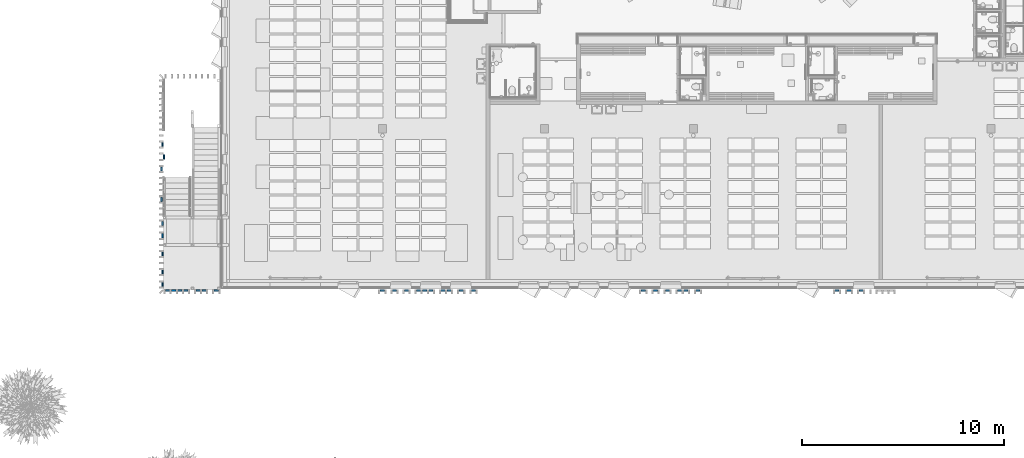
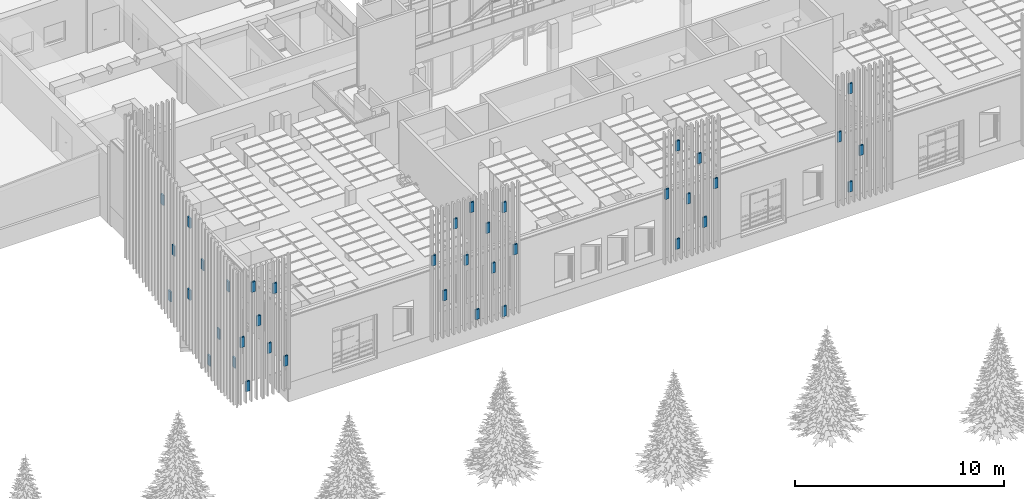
# One storey, part 22 of 301: 39 columns.
"""IFC2X3 building model written with IfcOpenShell, lengths in millimetres."""

from ifc_helpers import new_model, entity, si_unit, converted_unit, derived_unit, money_unit, direction, frame, origin_with_axes, place, context, subcontext, project, spatial, faceted_brep, material, type_object, element, save


model = new_model("IFC2X3")

# Units and contexts
model_context = context("Model", 3, precision=0.01, world=origin_with_axes(), true_north=direction((0.0, 1.0)))
body_context = subcontext(model_context, "Body", "Model", "MODEL_VIEW")
ifc_project = project(units=[si_unit("LENGTHUNIT", "METRE", prefix="MILLI"), si_unit("AREAUNIT", "SQUARE_METRE"), si_unit("VOLUMEUNIT", "CUBIC_METRE"), converted_unit("PLANEANGLEUNIT", "DEGREE", entity("IfcPlaneAngleMeasure", 0.0174532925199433), si_unit("PLANEANGLEUNIT", "RADIAN"), dimensions=[0, 0, 0, 0, 0, 0, 0]), money_unit("EUR"), converted_unit("TIMEUNIT", "Year", entity("IfcTimeMeasure", 31557600.0), si_unit("TIMEUNIT", "SECOND"), dimensions=[0, 0, 1, 0, 0, 0, 0]), si_unit("MASSUNIT", "GRAM", prefix="KILO"), si_unit("THERMODYNAMICTEMPERATUREUNIT", "DEGREE_CELSIUS"), si_unit("LUMINOUSINTENSITYUNIT", "LUMEN"), si_unit("ENERGYUNIT", "JOULE", prefix="MEGA"), derived_unit("THERMALCONDUCTANCEUNIT", [(si_unit("POWERUNIT", "WATT"), 1), (si_unit("LENGTHUNIT", "METRE"), -1), (si_unit("THERMODYNAMICTEMPERATUREUNIT", "KELVIN"), -1)]), derived_unit("SPECIFICHEATCAPACITYUNIT", [(si_unit("ENERGYUNIT", "JOULE"), 1), (si_unit("MASSUNIT", "GRAM", prefix="KILO"), -1), (si_unit("THERMODYNAMICTEMPERATUREUNIT", "KELVIN"), -1)]), derived_unit("MASSDENSITYUNIT", [(si_unit("MASSUNIT", "GRAM", prefix="KILO"), 1), (si_unit("VOLUMEUNIT", "CUBIC_METRE"), -1)])], contexts=[model_context])

# Site, building, storey
site_placement = place(None, frame((0.0, 0.0, 8650.0), z_axis=(0.0, 0.0, 1.0), x_axis=(1.0, 0.0, 0.0)))
site = spatial("IfcSite", under=ifc_project, at=site_placement, Name="43301:001:0844", CompositionType="ELEMENT")
building_placement = place(site_placement, origin_with_axes())
building = spatial("IfcBuilding", under=site, at=building_placement, Name="Kuressaare Ametikooli tuulikute mehaanikute õppekorpus", CompositionType="ELEMENT")
storey_placement = place(building_placement, origin_with_axes())
storey = spatial("IfcBuildingStorey", under=building, at=storey_placement, Name="1.korrus", CompositionType="ELEMENT", Elevation=0.0)

# Columns
ifc_material = material(Name="GENEERILINE - KONSTRUKTRIOON")
column_type = type_object("IfcColumnType", Name="GENEERILINE - KONSTRUKTRIOON 225 x 75", PredefinedType="NOTDEFINED")
column_1_placement = place(storey_placement, frame((109945.4495291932, 8586.338490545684, 3114.028004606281), z_axis=(0.0, 0.0, 1.0), x_axis=(1.0, 0.0, 0.0)))
element("IfcColumn", 1, at=column_1_placement, inside=storey, type_object=column_type, material=ifc_material, Name="Varjestus_viltu", context=body_context, shape_type="Brep", body=[
    faceted_brep([(-112.4999999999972, -37.49999999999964, 593.4383502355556), (-112.4999999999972, -37.49999999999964, 0.0), (112.4999999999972, -37.49999999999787, 0.0), (112.4999999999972, -37.49999999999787, 593.4383502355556), (-112.4999999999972, 37.49999999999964, 600.0000000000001), (-112.4999999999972, 37.49999999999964, 0.0), (112.4999999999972, 37.50000000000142, 0.0), (112.4999999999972, 37.50000000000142, 600.0000000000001)], [[[0, 1, 2, 3]], [[4, 5, 1, 0]], [[2, 1, 5, 6]], [[3, 2, 6, 7]], [[4, 0, 3, 7]], [[7, 6, 5, 4]]]),
])
for number, where, z_axis, x_axis in (
    (2, (108745.4495291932, 8586.338490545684, 3804.065608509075), (0.0, 0.0, 1.0), (1.0, 0.0, 0.0)),
    (3, (109345.4495291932, 8586.338490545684, 6418.760035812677), (0.0, 0.0, 1.0), (1.0, 0.0, 0.0)),
):
    element("IfcColumn", number, at=place(storey_placement, frame(where, z_axis=z_axis, x_axis=x_axis)), inside=storey, type_object=column_type, material=ifc_material, Name="Varjestus_viltu", context=body_context, shape_type="Brep", body=[
        faceted_brep([(-112.4999999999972, -37.49999999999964, 593.4383502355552), (-112.4999999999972, -37.49999999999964, 0.0), (112.4999999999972, -37.49999999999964, 0.0), (112.4999999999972, -37.49999999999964, 593.4383502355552), (-112.4999999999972, 37.49999999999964, 599.9999999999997), (-112.4999999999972, 37.49999999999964, 0.0), (112.4999999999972, 37.49999999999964, 0.0), (112.4999999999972, 37.49999999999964, 599.9999999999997)], [[[0, 1, 2, 3]], [[4, 5, 1, 0]], [[2, 1, 5, 6]], [[3, 2, 6, 7]], [[4, 0, 3, 7]], [[7, 6, 5, 4]]]),
    ])
column_2_placement = place(storey_placement, frame((109345.4495291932, 8586.338490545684, 675.2225760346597), z_axis=(0.0, 0.0, 1.0), x_axis=(1.0, 0.0, 0.0)))
element("IfcColumn", 4, at=column_2_placement, inside=storey, type_object=column_type, material=ifc_material, Name="Varjestus_viltu", context=body_context, shape_type="Brep", body=[
    faceted_brep([(-112.4999999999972, -37.49999999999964, 593.4383502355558), (-112.4999999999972, -37.49999999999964, 0.0), (112.4999999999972, -37.49999999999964, 0.0), (112.4999999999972, -37.49999999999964, 593.4383502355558), (-112.4999999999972, 37.49999999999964, 600.0000000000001), (-112.4999999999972, 37.49999999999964, 0.0), (112.4999999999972, 37.49999999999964, 0.0), (112.4999999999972, 37.49999999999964, 600.0000000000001)], [[[0, 1, 2, 3]], [[4, 5, 1, 0]], [[2, 1, 5, 6]], [[3, 2, 6, 7]], [[4, 0, 3, 7]], [[7, 6, 5, 4]]]),
])
column_3_placement = place(storey_placement, frame((110545.4495291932, 8586.338490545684, 5262.349559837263), z_axis=(0.0, 0.0, 1.0), x_axis=(1.0, 0.0, 0.0)))
element("IfcColumn", 5, at=column_3_placement, inside=storey, type_object=column_type, material=ifc_material, Name="Varjestus_viltu", context=body_context, shape_type="Brep", body=[
    faceted_brep([(-112.4999999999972, -37.49999999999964, 593.4383502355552), (-112.4999999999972, -37.49999999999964, 0.0), (112.4999999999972, -37.49999999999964, 0.0), (112.4999999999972, -37.49999999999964, 593.4383502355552), (-112.4999999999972, 37.49999999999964, 599.9999999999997), (-112.4999999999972, 37.49999999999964, 0.0), (112.4999999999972, 37.49999999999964, 0.0), (112.4999999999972, 37.49999999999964, 599.9999999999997)], [[[0, 1, 2, 3]], [[4, 5, 1, 0]], [[2, 1, 5, 6]], [[3, 2, 6, 7]], [[4, 0, 3, 7]], [[7, 6, 5, 4]]]),
])
column_4_placement = place(storey_placement, frame((110845.4495291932, 8586.338490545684, 1426.263517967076), z_axis=(0.0, 0.0, 1.0), x_axis=(1.0, 0.0, 0.0)))
element("IfcColumn", 6, at=column_4_placement, inside=storey, type_object=column_type, material=ifc_material, Name="Varjestus_viltu", context=body_context, shape_type="Brep", body=[
    faceted_brep([(-112.4999999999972, -37.49999999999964, 593.4383502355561), (-112.4999999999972, -37.49999999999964, 0.0), (112.4999999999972, -37.49999999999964, 0.0), (112.4999999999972, -37.49999999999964, 593.4383502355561), (-112.4999999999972, 37.49999999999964, 600.0000000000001), (-112.4999999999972, 37.49999999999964, 0.0), (112.4999999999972, 37.49999999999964, 0.0), (112.4999999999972, 37.49999999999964, 600.0000000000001)], [[[0, 1, 2, 3]], [[4, 5, 1, 0]], [[2, 1, 5, 6]], [[3, 2, 6, 7]], [[4, 0, 3, 7]], [[7, 6, 5, 4]]]),
])
column_5_placement = place(storey_placement, frame((111445.4495291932, 8586.338490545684, 3482.960251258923), z_axis=(0.0, 0.0, 1.0), x_axis=(1.0, 0.0, 0.0)))
element("IfcColumn", 7, at=column_5_placement, inside=storey, type_object=column_type, material=ifc_material, Name="Varjestus_viltu", context=body_context, shape_type="Brep", body=[
    faceted_brep([(-112.4999999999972, -37.49999999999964, 593.4383502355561), (-112.4999999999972, -37.49999999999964, 0.0), (112.4999999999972, -37.49999999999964, 0.0), (112.4999999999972, -37.49999999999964, 593.4383502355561), (-112.4999999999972, 37.49999999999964, 600.0000000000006), (-112.4999999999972, 37.49999999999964, 0.0), (112.4999999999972, 37.49999999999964, 0.0), (112.4999999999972, 37.49999999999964, 600.0000000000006)], [[[0, 1, 2, 3]], [[4, 5, 1, 0]], [[2, 1, 5, 6]], [[3, 2, 6, 7]], [[4, 0, 3, 7]], [[7, 6, 5, 4]]]),
])
column_6_placement = place(storey_placement, frame((119505.5423111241, 8586.338490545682, 2604.065608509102), z_axis=(0.0, 0.0, 1.0), x_axis=(1.0, 0.0, 0.0)))
element("IfcColumn", 8, at=column_6_placement, inside=storey, type_object=column_type, material=ifc_material, Name="Varjestus_viltu", context=body_context, shape_type="Brep", body=[
    faceted_brep([(-112.4999999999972, -37.49999999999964, 593.4383502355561), (-112.4999999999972, -37.49999999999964, 0.0), (112.4999999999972, -37.49999999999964, 0.0), (112.4999999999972, -37.49999999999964, 593.4383502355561), (-112.4999999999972, 37.49999999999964, 600.0000000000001), (-112.4999999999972, 37.49999999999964, 0.0), (112.4999999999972, 37.49999999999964, 0.0), (112.4999999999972, 37.49999999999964, 600.0000000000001)], [[[0, 1, 2, 3]], [[4, 5, 1, 0]], [[2, 1, 5, 6]], [[3, 2, 6, 7]], [[4, 0, 3, 7]], [[7, 6, 5, 4]]]),
])
for number, where, z_axis, x_axis in (
    (9, (118305.5423111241, 8586.338490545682, 3804.065608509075), (0.0, 0.0, 1.0), (1.0, 0.0, 0.0)),
    (10, (118905.5423111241, 8586.338490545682, 6418.760035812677), (0.0, 0.0, 1.0), (1.0, 0.0, 0.0)),
):
    element("IfcColumn", number, at=place(storey_placement, frame(where, z_axis=z_axis, x_axis=x_axis)), inside=storey, type_object=column_type, material=ifc_material, Name="Varjestus_viltu", context=body_context, shape_type="Brep", body=[
        faceted_brep([(-112.4999999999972, -37.49999999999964, 593.4383502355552), (-112.4999999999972, -37.49999999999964, 0.0), (112.4999999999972, -37.49999999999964, 0.0), (112.4999999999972, -37.49999999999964, 593.4383502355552), (-112.4999999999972, 37.49999999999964, 599.9999999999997), (-112.4999999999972, 37.49999999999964, 0.0), (112.4999999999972, 37.49999999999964, 0.0), (112.4999999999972, 37.49999999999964, 599.9999999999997)], [[[0, 1, 2, 3]], [[4, 5, 1, 0]], [[2, 1, 5, 6]], [[3, 2, 6, 7]], [[4, 0, 3, 7]], [[7, 6, 5, 4]]]),
    ])
column_7_placement = place(storey_placement, frame((118905.5423111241, 8586.338490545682, 675.2225760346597), z_axis=(0.0, 0.0, 1.0), x_axis=(1.0, 0.0, 0.0)))
element("IfcColumn", 11, at=column_7_placement, inside=storey, type_object=column_type, material=ifc_material, Name="Varjestus_viltu", context=body_context, shape_type="Brep", body=[
    faceted_brep([(-112.4999999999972, -37.49999999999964, 593.4383502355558), (-112.4999999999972, -37.49999999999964, 0.0), (112.4999999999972, -37.49999999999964, 0.0), (112.4999999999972, -37.49999999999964, 593.4383502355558), (-112.4999999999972, 37.49999999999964, 600.0000000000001), (-112.4999999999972, 37.49999999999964, 0.0), (112.4999999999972, 37.49999999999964, 0.0), (112.4999999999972, 37.49999999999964, 600.0000000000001)], [[[0, 1, 2, 3]], [[4, 5, 1, 0]], [[2, 1, 5, 6]], [[3, 2, 6, 7]], [[4, 0, 3, 7]], [[7, 6, 5, 4]]]),
])
column_8_placement = place(storey_placement, frame((99155.56858359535, 8586.338490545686, 2842.619640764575), z_axis=(0.0, 0.0, 1.0), x_axis=(1.0, 0.0, 0.0)))
element("IfcColumn", 12, at=column_8_placement, inside=storey, type_object=column_type, material=ifc_material, Name="Varjestus_viltu", context=body_context, shape_type="Brep", body=[
    faceted_brep([(-112.4999999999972, -37.49999999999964, 593.4383502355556), (-112.4999999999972, -37.49999999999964, 0.0), (112.4999999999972, -37.49999999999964, 0.0), (112.4999999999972, -37.49999999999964, 593.4383502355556), (-112.4999999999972, 37.49999999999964, 600.0000000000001), (-112.4999999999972, 37.49999999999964, 0.0), (112.4999999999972, 37.49999999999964, 0.0), (112.4999999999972, 37.49999999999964, 600.0000000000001)], [[[0, 1, 2, 3]], [[4, 5, 1, 0]], [[2, 1, 5, 6]], [[3, 2, 6, 7]], [[4, 0, 3, 7]], [[7, 6, 5, 4]]]),
])
column_9_placement = place(storey_placement, frame((97655.56858359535, 8586.338490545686, 3821.105357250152), z_axis=(0.0, 0.0, 1.0), x_axis=(1.0, 0.0, 0.0)))
element("IfcColumn", 13, at=column_9_placement, inside=storey, type_object=column_type, material=ifc_material, Name="Varjestus_viltu", context=body_context, shape_type="Brep", body=[
    faceted_brep([(-112.4999999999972, -37.49999999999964, 593.4383502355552), (-112.4999999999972, -37.49999999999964, 0.0), (112.4999999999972, -37.49999999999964, 0.0), (112.4999999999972, -37.49999999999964, 593.4383502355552), (-112.4999999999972, 37.49999999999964, 599.9999999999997), (-112.4999999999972, 37.49999999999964, 0.0), (112.4999999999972, 37.49999999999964, 0.0), (112.4999999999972, 37.49999999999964, 599.9999999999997)], [[[0, 1, 2, 3]], [[4, 5, 1, 0]], [[2, 1, 5, 6]], [[3, 2, 6, 7]], [[4, 0, 3, 7]], [[7, 6, 5, 4]]]),
])
column_10_placement = place(storey_placement, frame((97955.56858359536, 8586.338490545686, 6811.780808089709), z_axis=(0.0, 0.0, 1.0), x_axis=(1.0, 0.0, 0.0)))
element("IfcColumn", 14, at=column_10_placement, inside=storey, type_object=column_type, material=ifc_material, Name="Varjestus_viltu", context=body_context, shape_type="Brep", body=[
    faceted_brep([(-112.4999999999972, -37.49999999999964, 593.4383502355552), (-112.4999999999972, -37.49999999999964, 0.0), (112.4999999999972, -37.49999999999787, 0.0), (112.4999999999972, -37.49999999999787, 593.4383502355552), (-112.4999999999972, 37.49999999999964, 599.9999999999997), (-112.4999999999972, 37.49999999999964, 0.0), (112.4999999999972, 37.50000000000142, 0.0), (112.4999999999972, 37.50000000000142, 599.9999999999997)], [[[0, 1, 2, 3]], [[4, 5, 1, 0]], [[2, 1, 5, 6]], [[3, 2, 6, 7]], [[4, 0, 3, 7]], [[7, 6, 5, 4]]]),
])
column_11_placement = place(storey_placement, frame((98255.56858359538, 8586.338490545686, 438.8966056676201), z_axis=(0.0, 0.0, 1.0), x_axis=(1.0, 0.0, 0.0)))
element("IfcColumn", 15, at=column_11_placement, inside=storey, type_object=column_type, material=ifc_material, Name="Varjestus_viltu", context=body_context, shape_type="Brep", body=[
    faceted_brep([(-112.4999999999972, -37.49999999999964, 593.4383502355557), (-112.4999999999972, -37.49999999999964, 0.0), (112.4999999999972, -37.49999999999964, 0.0), (112.4999999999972, -37.49999999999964, 593.4383502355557), (-112.4999999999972, 37.49999999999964, 600.0), (-112.4999999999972, 37.49999999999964, 0.0), (112.4999999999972, 37.49999999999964, 0.0), (112.4999999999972, 37.49999999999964, 600.0)], [[[0, 1, 2, 3]], [[4, 5, 1, 0]], [[2, 1, 5, 6]], [[3, 2, 6, 7]], [[4, 0, 3, 7]], [[7, 6, 5, 4]]]),
])
column_12_placement = place(storey_placement, frame((98855.56858359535, 8586.338490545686, 5279.38930857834), z_axis=(0.0, 0.0, 1.0), x_axis=(1.0, 0.0, 0.0)))
element("IfcColumn", 16, at=column_12_placement, inside=storey, type_object=column_type, material=ifc_material, Name="Varjestus_viltu", context=body_context, shape_type="Brep", body=[
    faceted_brep([(-112.4999999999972, -37.49999999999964, 593.4383502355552), (-112.4999999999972, -37.49999999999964, 0.0), (112.4999999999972, -37.49999999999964, 0.0), (112.4999999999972, -37.49999999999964, 593.4383502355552), (-112.4999999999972, 37.49999999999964, 599.9999999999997), (-112.4999999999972, 37.49999999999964, 0.0), (112.4999999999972, 37.49999999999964, 0.0), (112.4999999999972, 37.49999999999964, 599.9999999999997)], [[[0, 1, 2, 3]], [[4, 5, 1, 0]], [[2, 1, 5, 6]], [[3, 2, 6, 7]], [[4, 0, 3, 7]], [[7, 6, 5, 4]]]),
])
column_13_placement = place(storey_placement, frame((99755.56858359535, 8586.338490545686, 100.0000000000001), z_axis=(0.0, 0.0, 1.0), x_axis=(1.0, 0.0, 0.0)))
element("IfcColumn", 17, at=column_13_placement, inside=storey, type_object=column_type, material=ifc_material, Name="Varjestus_viltu", context=body_context, shape_type="Brep", body=[
    faceted_brep([(-112.4999999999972, -37.49999999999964, 593.4383502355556), (-112.4999999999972, -37.49999999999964, 0.0), (112.4999999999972, -37.49999999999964, 0.0), (112.4999999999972, -37.49999999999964, 593.4383502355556), (-112.4999999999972, 37.49999999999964, 599.9999999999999), (-112.4999999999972, 37.49999999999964, 0.0), (112.4999999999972, 37.49999999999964, 0.0), (112.4999999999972, 37.49999999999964, 599.9999999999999)], [[[0, 1, 2, 3]], [[4, 5, 1, 0]], [[2, 1, 5, 6]], [[3, 2, 6, 7]], [[4, 0, 3, 7]], [[7, 6, 5, 4]]]),
])
for number, where, z_axis, x_axis in (
    (18, (100355.5685835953, 8586.338490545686, 3500.0), (0.0, 0.0, 1.0), (1.0, 0.0, 0.0)),
    (19, (99755.56858359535, 8586.338490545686, 6179.389308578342), (0.0, 0.0, 1.0), (1.0, 0.0, 0.0)),
):
    element("IfcColumn", number, at=place(storey_placement, frame(where, z_axis=z_axis, x_axis=x_axis)), inside=storey, type_object=column_type, material=ifc_material, Name="Varjestus_viltu", context=body_context, shape_type="Brep", body=[
        faceted_brep([(-112.4999999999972, -37.49999999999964, 593.4383502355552), (-112.4999999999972, -37.49999999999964, 0.0), (112.4999999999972, -37.49999999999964, 0.0), (112.4999999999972, -37.49999999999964, 593.4383502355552), (-112.4999999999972, 37.49999999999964, 599.9999999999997), (-112.4999999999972, 37.49999999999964, 0.0), (112.4999999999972, 37.49999999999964, 0.0), (112.4999999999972, 37.49999999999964, 599.9999999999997)], [[[0, 1, 2, 3]], [[4, 5, 1, 0]], [[2, 1, 5, 6]], [[3, 2, 6, 7]], [[4, 0, 3, 7]], [[7, 6, 5, 4]]]),
    ])
column_14_placement = place(storey_placement, frame((96455.56858359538, 8586.338490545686, 2176.504429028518), z_axis=(0.0, 0.0, 1.0), x_axis=(1.0, 0.0, 0.0)))
element("IfcColumn", 20, at=column_14_placement, inside=storey, type_object=column_type, material=ifc_material, Name="Varjestus_viltu", context=body_context, shape_type="Brep", body=[
    faceted_brep([(-112.4999999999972, -37.49999999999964, 593.4383502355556), (-112.4999999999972, -37.49999999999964, 0.0), (112.4999999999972, -37.49999999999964, 0.0), (112.4999999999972, -37.49999999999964, 593.4383502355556), (-112.4999999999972, 37.49999999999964, 600.0000000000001), (-112.4999999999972, 37.49999999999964, 0.0), (112.4999999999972, 37.49999999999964, 0.0), (112.4999999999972, 37.49999999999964, 600.0000000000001)], [[[0, 1, 2, 3]], [[4, 5, 1, 0]], [[2, 1, 5, 6]], [[3, 2, 6, 7]], [[4, 0, 3, 7]], [[7, 6, 5, 4]]]),
])
column_15_placement = place(storey_placement, frame((97055.56858359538, 8586.338490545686, 6169.731344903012), z_axis=(0.0, 0.0, 1.0), x_axis=(1.0, 0.0, 0.0)))
element("IfcColumn", 21, at=column_15_placement, inside=storey, type_object=column_type, material=ifc_material, Name="Varjestus_viltu", context=body_context, shape_type="Brep", body=[
    faceted_brep([(-112.4999999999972, -37.49999999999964, 593.4383502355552), (-112.4999999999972, -37.49999999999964, 0.0), (112.4999999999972, -37.49999999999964, 0.0), (112.4999999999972, -37.49999999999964, 593.4383502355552), (-112.4999999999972, 37.49999999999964, 599.9999999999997), (-112.4999999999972, 37.49999999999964, 0.0), (112.4999999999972, 37.49999999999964, 0.0), (112.4999999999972, 37.49999999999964, 599.9999999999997)], [[[0, 1, 2, 3]], [[4, 5, 1, 0]], [[2, 1, 5, 6]], [[3, 2, 6, 7]], [[4, 0, 3, 7]], [[7, 6, 5, 4]]]),
])
column_16_placement = place(storey_placement, frame((86158.75964555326, 8586.338538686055, 4306.868093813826), z_axis=(0.0, 0.0, 1.0), x_axis=(1.0, 0.0, 0.0)))
element("IfcColumn", 22, at=column_16_placement, inside=storey, type_object=column_type, material=ifc_material, Name="Varjestus_viltu", context=body_context, shape_type="Brep", body=[
    faceted_brep([(-112.4999999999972, -37.49999999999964, 593.4383502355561), (-112.4999999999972, -37.49999999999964, 0.0), (112.4999999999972, -37.49999999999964, 0.0), (112.4999999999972, -37.49999999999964, 593.4383502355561), (-112.4999999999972, 37.49999999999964, 599.9999999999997), (-112.4999999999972, 37.49999999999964, 0.0), (112.4999999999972, 37.49999999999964, 0.0), (112.4999999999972, 37.49999999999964, 599.9999999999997)], [[[0, 1, 2, 3]], [[4, 5, 1, 0]], [[2, 1, 5, 6]], [[3, 2, 6, 7]], [[4, 0, 3, 7]], [[7, 6, 5, 4]]]),
])
column_17_placement = place(storey_placement, frame((85858.75964555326, 8586.338490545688, 6384.057520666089), z_axis=(0.0, 0.0, 1.0), x_axis=(1.0, 0.0, 0.0)))
element("IfcColumn", 23, at=column_17_placement, inside=storey, type_object=column_type, material=ifc_material, Name="Varjestus_viltu", context=body_context, shape_type="Brep", body=[
    faceted_brep([(-112.4999999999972, -37.49999999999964, 593.4383502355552), (-112.4999999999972, -37.49999999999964, 0.0), (112.4999999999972, -37.49999999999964, 0.0), (112.4999999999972, -37.49999999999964, 593.4383502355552), (-112.4999999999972, 37.49999999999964, 599.9999999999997), (-112.4999999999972, 37.49999999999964, 0.0), (112.4999999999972, 37.49999999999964, 0.0), (112.4999999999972, 37.49999999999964, 599.9999999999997)], [[[0, 1, 2, 3]], [[4, 5, 1, 0]], [[2, 1, 5, 6]], [[3, 2, 6, 7]], [[4, 0, 3, 7]], [[7, 6, 5, 4]]]),
])
column_18_placement = place(storey_placement, frame((85558.75964555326, 8586.338538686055, 675.2225760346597), z_axis=(0.0, 0.0, 1.0), x_axis=(1.0, 0.0, 0.0)))
element("IfcColumn", 24, at=column_18_placement, inside=storey, type_object=column_type, material=ifc_material, Name="Varjestus_viltu", context=body_context, shape_type="Brep", body=[
    faceted_brep([(-112.4999999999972, -37.49999999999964, 593.4383502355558), (-112.4999999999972, -37.49999999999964, 0.0), (112.4999999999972, -37.49999999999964, 0.0), (112.4999999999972, -37.49999999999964, 593.4383502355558), (-112.4999999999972, 37.49999999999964, 600.0000000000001), (-112.4999999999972, 37.49999999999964, 0.0), (112.4999999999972, 37.49999999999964, 0.0), (112.4999999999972, 37.49999999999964, 600.0000000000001)], [[[0, 1, 2, 3]], [[4, 5, 1, 0]], [[2, 1, 5, 6]], [[3, 2, 6, 7]], [[4, 0, 3, 7]], [[7, 6, 5, 4]]]),
])
column_19_placement = place(storey_placement, frame((87058.7597082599, 8586.338490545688, 5886.291265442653), z_axis=(0.0, 0.0, 1.0), x_axis=(1.0, 0.0, 0.0)))
element("IfcColumn", 25, at=column_19_placement, inside=storey, type_object=column_type, material=ifc_material, Name="Varjestus_viltu", context=body_context, shape_type="Brep", body=[
    faceted_brep([(-112.4999999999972, -37.49999999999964, 593.4383502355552), (-112.4999999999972, -37.49999999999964, 0.0), (112.4999999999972, -37.49999999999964, 0.0), (112.4999999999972, -37.49999999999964, 593.4383502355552), (-112.4999999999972, 37.49999999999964, 599.9999999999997), (-112.4999999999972, 37.49999999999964, 0.0), (112.4999999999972, 37.49999999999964, 0.0), (112.4999999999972, 37.49999999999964, 599.9999999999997)], [[[0, 1, 2, 3]], [[4, 5, 1, 0]], [[2, 1, 5, 6]], [[3, 2, 6, 7]], [[4, 0, 3, 7]], [[7, 6, 5, 4]]]),
])
column_20_placement = place(storey_placement, frame((87658.75964555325, 8586.338538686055, 1426.263517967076), z_axis=(0.0, 0.0, 1.0), x_axis=(1.0, 0.0, 0.0)))
element("IfcColumn", 26, at=column_20_placement, inside=storey, type_object=column_type, material=ifc_material, Name="Varjestus_viltu", context=body_context, shape_type="Brep", body=[
    faceted_brep([(-112.4999999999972, -37.49999999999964, 593.4383502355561), (-112.4999999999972, -37.49999999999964, 0.0), (112.4999999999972, -37.49999999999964, 0.0), (112.4999999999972, -37.49999999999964, 593.4383502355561), (-112.4999999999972, 37.49999999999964, 600.0000000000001), (-112.4999999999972, 37.49999999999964, 0.0), (112.4999999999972, 37.49999999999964, 0.0), (112.4999999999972, 37.49999999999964, 600.0000000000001)], [[[0, 1, 2, 3]], [[4, 5, 1, 0]], [[2, 1, 5, 6]], [[3, 2, 6, 7]], [[4, 0, 3, 7]], [[7, 6, 5, 4]]]),
])
column_21_placement = place(storey_placement, frame((85008.72662386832, 10390.41808387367, 2853.066278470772), z_axis=(0.0, 0.0, 1.0), x_axis=(0.0, -1.0, 0.0)))
element("IfcColumn", 27, at=column_21_placement, inside=storey, type_object=column_type, material=ifc_material, Name="Varjestus_viltu", context=body_context, shape_type="Brep", body=[
    faceted_brep([(-112.4999999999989, -37.50000000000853, 593.4383502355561), (-112.4999999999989, -37.50000000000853, 0.0), (112.5000000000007, -37.50000000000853, 0.0), (112.5000000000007, -37.50000000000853, 593.4383502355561), (-112.4999999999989, 37.49999999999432, 600.0000000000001), (-112.4999999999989, 37.49999999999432, 0.0), (112.5000000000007, 37.49999999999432, 0.0), (112.5000000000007, 37.49999999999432, 600.0000000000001)], [[[0, 1, 2, 3]], [[4, 5, 1, 0]], [[2, 1, 5, 6]], [[3, 2, 6, 7]], [[4, 0, 3, 7]], [[7, 6, 5, 4]]]),
])
column_22_placement = place(storey_placement, frame((84996.22661565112, 11890.41813201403, 5969.57405069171), z_axis=(0.0, 0.0, 1.0), x_axis=(0.0, -1.0, 0.0)))
element("IfcColumn", 28, at=column_22_placement, inside=storey, type_object=column_type, material=ifc_material, Name="Varjestus_viltu", context=body_context, shape_type="Brep", body=[
    faceted_brep([(-112.4999999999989, -37.50000000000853, 593.4383502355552), (-112.4999999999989, -37.50000000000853, 0.0), (112.5000000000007, -37.50000000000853, 0.0), (112.5000000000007, -37.50000000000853, 593.4383502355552), (-112.4999999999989, 37.49999999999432, 599.9999999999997), (-112.4999999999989, 37.49999999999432, 0.0), (112.5000000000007, 37.49999999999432, 0.0), (112.5000000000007, 37.49999999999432, 599.9999999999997)], [[[0, 1, 2, 3]], [[4, 5, 1, 0]], [[2, 1, 5, 6]], [[3, 2, 6, 7]], [[4, 0, 3, 7]], [[7, 6, 5, 4]]]),
])
column_23_placement = place(storey_placement, frame((85008.72662386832, 11290.41808387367, 743.7532695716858), z_axis=(0.0, 0.0, 1.0), x_axis=(0.0, -1.0, 0.0)))
element("IfcColumn", 29, at=column_23_placement, inside=storey, type_object=column_type, material=ifc_material, Name="Varjestus_viltu", context=body_context, shape_type="Brep", body=[
    faceted_brep([(-112.4999999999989, -37.50000000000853, 593.4383502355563), (-112.4999999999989, -37.50000000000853, 0.0), (112.5000000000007, -37.50000000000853, 0.0), (112.5000000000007, -37.50000000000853, 593.4383502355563), (-112.4999999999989, 37.49999999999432, 600.0000000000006), (-112.4999999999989, 37.49999999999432, 0.0), (112.5000000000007, 37.49999999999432, 0.0), (112.5000000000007, 37.49999999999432, 600.0000000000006)], [[[0, 1, 2, 3]], [[4, 5, 1, 0]], [[2, 1, 5, 6]], [[3, 2, 6, 7]], [[4, 0, 3, 7]], [[7, 6, 5, 4]]]),
])
column_24_placement = place(storey_placement, frame((85006.7273876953, 8889.371547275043, 2075.733493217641), z_axis=(0.0, 0.0, 1.0), x_axis=(0.0, -1.0, 0.0)))
element("IfcColumn", 30, at=column_24_placement, inside=storey, type_object=column_type, material=ifc_material, Name="Varjestus_viltu", context=body_context, shape_type="Brep", body=[
    faceted_brep([(-112.4999999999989, -37.50000000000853, 593.4383502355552), (-112.4999999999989, -37.50000000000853, 0.0), (112.5000000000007, -37.50000000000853, 0.0), (112.5000000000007, -37.50000000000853, 593.4383502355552), (-112.4999999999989, 37.49999999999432, 599.9999999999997), (-112.4999999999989, 37.49999999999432, 0.0), (112.5000000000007, 37.49999999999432, 0.0), (112.5000000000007, 37.49999999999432, 599.9999999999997)], [[[0, 1, 2, 3]], [[4, 5, 1, 0]], [[2, 1, 5, 6]], [[3, 2, 6, 7]], [[4, 0, 3, 7]], [[7, 6, 5, 4]]]),
])
column_25_placement = place(storey_placement, frame((84946.22662386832, 13090.41806957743, 3531.061640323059), z_axis=(0.0, 0.0, 1.0), x_axis=(0.0, -1.0, 0.0)))
element("IfcColumn", 31, at=column_25_placement, inside=storey, type_object=column_type, material=ifc_material, Name="Varjestus_viltu", context=body_context, shape_type="Brep", body=[
    faceted_brep([(-112.4999999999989, -37.50000000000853, 593.4383502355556), (-112.4999999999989, -37.50000000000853, 0.0), (112.5000000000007, -37.50000000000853, 0.0), (112.5000000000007, -37.50000000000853, 593.4383502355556), (-112.4999999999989, 37.49999999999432, 600.0000000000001), (-112.4999999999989, 37.49999999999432, 0.0), (112.5000000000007, 37.49999999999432, 0.0), (112.5000000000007, 37.49999999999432, 600.0000000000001)], [[[0, 1, 2, 3]], [[4, 5, 1, 0]], [[2, 1, 5, 6]], [[3, 2, 6, 7]], [[4, 0, 3, 7]], [[7, 6, 5, 4]]]),
])
column_26_placement = place(storey_placement, frame((85008.72662386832, 9490.418083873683, 6177.696880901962), z_axis=(0.0, 0.0, 1.0), x_axis=(0.0, -1.0, 0.0)))
element("IfcColumn", 32, at=column_26_placement, inside=storey, type_object=column_type, material=ifc_material, Name="Varjestus_viltu", context=body_context, shape_type="Brep", body=[
    faceted_brep([(-112.4999999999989, -37.50000000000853, 593.4383502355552), (-112.4999999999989, -37.50000000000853, 0.0), (112.5000000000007, -37.50000000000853, 0.0), (112.5000000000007, -37.50000000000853, 593.4383502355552), (-112.4999999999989, 37.49999999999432, 599.9999999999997), (-112.4999999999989, 37.49999999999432, 0.0), (112.5000000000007, 37.49999999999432, 0.0), (112.5000000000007, 37.49999999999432, 599.9999999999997)], [[[0, 1, 2, 3]], [[4, 5, 1, 0]], [[2, 1, 5, 6]], [[3, 2, 6, 7]], [[4, 0, 3, 7]], [[7, 6, 5, 4]]]),
])
column_27_placement = place(storey_placement, frame((85008.72662386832, 15790.41808387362, 7418.12033619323), z_axis=(0.0, 0.0, 1.0), x_axis=(0.0, -1.0, 0.0)))
element("IfcColumn", 33, at=column_27_placement, inside=storey, type_object=column_type, material=ifc_material, Name="Varjestus_viltu", context=body_context, shape_type="Brep", body=[
    faceted_brep([(-112.4999999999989, -37.50000000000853, 593.4383502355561), (-112.4999999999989, -37.50000000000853, 0.0), (112.5000000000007, -37.50000000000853, 0.0), (112.5000000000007, -37.50000000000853, 593.4383502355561), (-112.4999999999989, 37.49999999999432, 600.0000000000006), (-112.4999999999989, 37.49999999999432, 0.0), (112.5000000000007, 37.49999999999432, 0.0), (112.5000000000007, 37.49999999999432, 600.0000000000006)], [[[0, 1, 2, 3]], [[4, 5, 1, 0]], [[2, 1, 5, 6]], [[3, 2, 6, 7]], [[4, 0, 3, 7]], [[7, 6, 5, 4]]]),
])
column_28_placement = place(storey_placement, frame((84946.22662386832, 14590.41806957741, 5188.833007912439), z_axis=(0.0, 0.0, 1.0), x_axis=(0.0, -1.0, 0.0)))
element("IfcColumn", 34, at=column_28_placement, inside=storey, type_object=column_type, material=ifc_material, Name="Varjestus_viltu", context=body_context, shape_type="Brep", body=[
    faceted_brep([(-112.4999999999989, -37.50000000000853, 593.4383502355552), (-112.4999999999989, -37.50000000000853, 0.0), (112.5000000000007, -37.50000000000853, 0.0), (112.5000000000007, -37.50000000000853, 593.4383502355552), (-112.4999999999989, 37.49999999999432, 599.9999999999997), (-112.4999999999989, 37.49999999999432, 0.0), (112.5000000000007, 37.49999999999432, 0.0), (112.5000000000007, 37.49999999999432, 599.9999999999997)], [[[0, 1, 2, 3]], [[4, 5, 1, 0]], [[2, 1, 5, 6]], [[3, 2, 6, 7]], [[4, 0, 3, 7]], [[7, 6, 5, 4]]]),
])
column_29_placement = place(storey_placement, frame((84946.22662386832, 13090.41806957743, 7740.89928334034), z_axis=(0.0, 0.0, 1.0), x_axis=(0.0, -1.0, 0.0)))
element("IfcColumn", 35, at=column_29_placement, inside=storey, type_object=column_type, material=ifc_material, Name="Varjestus_viltu", context=body_context, shape_type="Brep", body=[
    faceted_brep([(-112.4999999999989, -37.50000000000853, 593.4383502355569), (-112.4999999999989, -37.50000000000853, 0.0), (112.5000000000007, -37.50000000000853, 0.0), (112.5000000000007, -37.50000000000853, 593.4383502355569), (-112.4999999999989, 37.49999999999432, 600.0000000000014), (-112.4999999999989, 37.49999999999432, 0.0), (112.5000000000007, 37.49999999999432, 0.0), (112.5000000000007, 37.49999999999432, 600.0000000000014)], [[[0, 1, 2, 3]], [[4, 5, 1, 0]], [[2, 1, 5, 6]], [[3, 2, 6, 7]], [[4, 0, 3, 7]], [[7, 6, 5, 4]]]),
])
column_30_placement = place(storey_placement, frame((85081.7273876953, 15189.37154727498, 2119.29384889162), z_axis=(0.0, 0.0, 1.0), x_axis=(0.0, -1.0, 0.0)))
element("IfcColumn", 36, at=column_30_placement, inside=storey, type_object=column_type, material=ifc_material, Name="Varjestus_viltu", context=body_context, shape_type="Brep", body=[
    faceted_brep([(-112.4999999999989, -37.50000000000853, 593.4383502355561), (-112.4999999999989, -37.50000000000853, 0.0), (112.5000000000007, -37.50000000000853, 0.0), (112.5000000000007, -37.50000000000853, 593.4383502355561), (-112.4999999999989, 37.49999999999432, 600.0000000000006), (-112.4999999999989, 37.49999999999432, 0.0), (112.5000000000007, 37.49999999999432, 0.0), (112.5000000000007, 37.49999999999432, 600.0000000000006)], [[[0, 1, 2, 3]], [[4, 5, 1, 0]], [[2, 1, 5, 6]], [[3, 2, 6, 7]], [[4, 0, 3, 7]], [[7, 6, 5, 4]]]),
])
for number, where, z_axis, x_axis in (
    (37, (95855.56858359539, 8586.338490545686, 4427.299934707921), (0.0, 0.0, 1.0), (1.0, 0.0, 0.0)),
    (38, (86758.75964555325, 8586.338490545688, 2496.407077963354), (0.0, 0.0, 1.0), (1.0, 0.0, 0.0)),
):
    element("IfcColumn", number, at=place(storey_placement, frame(where, z_axis=z_axis, x_axis=x_axis)), inside=storey, type_object=column_type, material=ifc_material, Name="Varjestus_viltu", context=body_context, shape_type="Brep", body=[
        faceted_brep([(-112.4999999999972, -37.49999999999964, 593.4383502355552), (-112.4999999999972, -37.49999999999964, 0.0), (112.4999999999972, -37.49999999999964, 0.0), (112.4999999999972, -37.49999999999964, 593.4383502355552), (-112.4999999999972, 37.49999999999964, 599.9999999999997), (-112.4999999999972, 37.49999999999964, 0.0), (112.4999999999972, 37.49999999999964, 0.0), (112.4999999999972, 37.49999999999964, 599.9999999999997)], [[[0, 1, 2, 3]], [[4, 5, 1, 0]], [[2, 1, 5, 6]], [[3, 2, 6, 7]], [[4, 0, 3, 7]], [[7, 6, 5, 4]]]),
    ])
column_31_placement = place(storey_placement, frame((85258.75964555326, 8586.338538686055, 3357.661397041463), z_axis=(0.0, 0.0, 1.0), x_axis=(1.0, 0.0, 0.0)))
element("IfcColumn", 39, at=column_31_placement, inside=storey, type_object=column_type, material=ifc_material, Name="Varjestus_viltu", context=body_context, shape_type="Brep", body=[
    faceted_brep([(-112.4999999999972, -37.49999999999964, 593.4383502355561), (-112.4999999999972, -37.49999999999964, 0.0), (112.4999999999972, -37.49999999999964, 0.0), (112.4999999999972, -37.49999999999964, 593.4383502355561), (-112.4999999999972, 37.49999999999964, 600.0000000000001), (-112.4999999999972, 37.49999999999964, 0.0), (112.4999999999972, 37.49999999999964, 0.0), (112.4999999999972, 37.49999999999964, 600.0000000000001)], [[[0, 1, 2, 3]], [[4, 5, 1, 0]], [[2, 1, 5, 6]], [[3, 2, 6, 7]], [[4, 0, 3, 7]], [[7, 6, 5, 4]]]),
])

save(model, "model.ifc")
